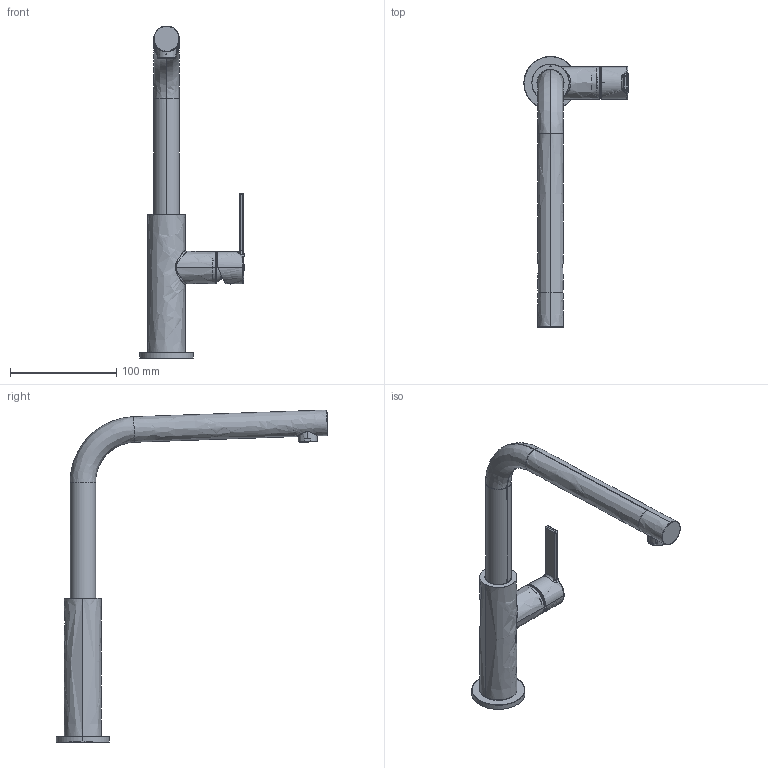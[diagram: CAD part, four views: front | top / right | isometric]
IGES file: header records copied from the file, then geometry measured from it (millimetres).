
Global section: file name: F:\_CONVERSIONE_CAD_2024_2025\PACCHETTI_2026\NUOVI_PACCHETTI_LUGLIO\PRIORITY_3\3D001_Taps_Maris-Slim_L-Swivel-Spout\3D001_Taps_Maris-Slim_L-Swivel-Spout.igs; native system: Rhinoceros ( May  6 2026 ); preprocessor: Trout Lake IGES 012 May  6 2026; date: 260804.142154; units: millimetre
Bounding box: 97.95 x 255.39 x 312.21 mm (x, y, z)
Surface area: 94727.4 mm2 (no closed solid volume)
Topology: 0 solids, 0 shells, 2374 faces, 12979 edges, 12952 vertices
Faces by surface type: bspline 2374
